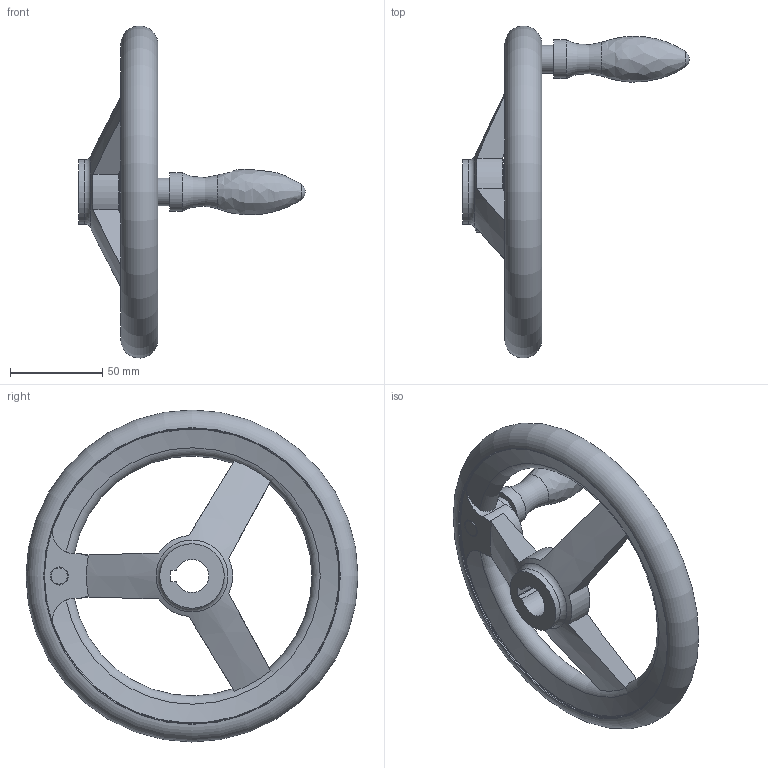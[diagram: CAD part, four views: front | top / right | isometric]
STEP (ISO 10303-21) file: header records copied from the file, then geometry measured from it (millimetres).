
FILE_DESCRIPTION( ( 'STEP AP203' ), '1' );
FILE_NAME( 'C:/Temp/Ganter_Step_05_03_2020/data/1_3/din_950/din_950_k/din_950_k_d/Handwheel DIN 950-GG-180-K18-D.stp', '2020-03-05T10:30:56', ( 'License CC BY-ND 4.0' ), ( 'CADENAS' ), ' ', 'PARTsolutions', ' ' );
FILE_SCHEMA( ( 'CONFIG_CONTROL_DESIGN' ) );
Length unit declared in the file: millimetre
Products named in the file (1): _Handwheel DIN 950-GG-180-K18-D
Bounding box: 123 x 179.98 x 179.98 mm (x, y, z)
Volume: 259134.6 mm3; surface area: 55674.6 mm2
Topology: 1 solids, 1 shells, 49 faces, 134 edges, 85 vertices
Faces by surface type: cylinder 15, plane 15, torus 11, cone 6, bspline 1, sphere 1
Full cylindrical faces by diameter (mm): 15 x1, 21 x1, 35 x2, 160 x2
Entity records: 1861 total; most frequent: CARTESIAN_POINT 699, DIRECTION 226, ORIENTED_EDGE 216, EDGE_CURVE 108, AXIS2_PLACEMENT_3D 102, VERTEX_POINT 81, EDGE_LOOP 75, FACE_OUTER_BOUND 64
